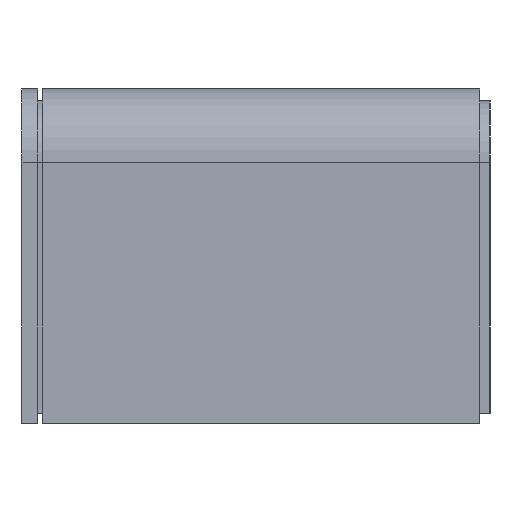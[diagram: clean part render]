
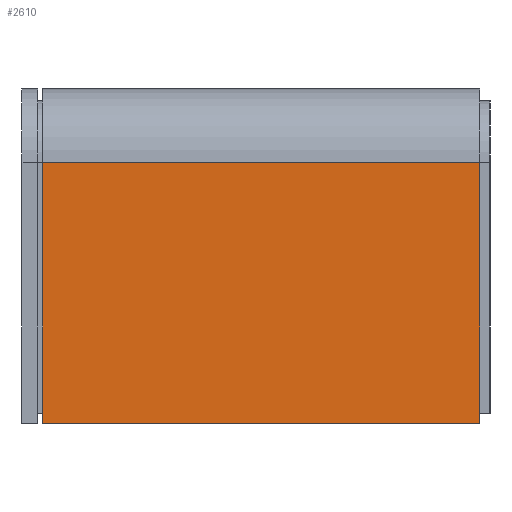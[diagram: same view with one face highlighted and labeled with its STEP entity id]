
A CAD part, left-side view. The second image highlights one B-rep face of the part: STEP entity #2610.
In plain terms, the highlighted planar face has unit normal (-1, 0, 0).
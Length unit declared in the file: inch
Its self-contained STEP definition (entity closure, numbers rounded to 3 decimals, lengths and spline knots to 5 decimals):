
#482=PLANE('',#2886);
#602=FACE_OUTER_BOUND('',#730,.T.);
#730=EDGE_LOOP('',(#2134,#2135,#2136,#2137));
#901=LINE('',#3917,#1174);
#902=LINE('',#3920,#1175);
#904=LINE('',#3926,#1177);
#905=LINE('',#3927,#1178);
#1174=VECTOR('',#3235,0.3937);
#1175=VECTOR('',#3238,0.3937);
#1177=VECTOR('',#3244,0.3937);
#1178=VECTOR('',#3245,0.3937);
#1485=VERTEX_POINT('',#3908);
#1488=VERTEX_POINT('',#3915);
#1489=VERTEX_POINT('',#3919);
#1491=VERTEX_POINT('',#3925);
#1727=EDGE_CURVE('',#1485,#1488,#901,.T.);
#1728=EDGE_CURVE('',#1485,#1489,#902,.T.);
#1731=EDGE_CURVE('',#1488,#1491,#904,.T.);
#1732=EDGE_CURVE('',#1491,#1489,#905,.T.);
#2134=ORIENTED_EDGE('',*,*,#1727,.T.);
#2135=ORIENTED_EDGE('',*,*,#1731,.T.);
#2136=ORIENTED_EDGE('',*,*,#1732,.T.);
#2137=ORIENTED_EDGE('',*,*,#1728,.F.);
#2610=ADVANCED_FACE('',(#602),#482,.T.);
#2886=AXIS2_PLACEMENT_3D('',#3924,#3242,#3243);
#3235=DIRECTION('',(0.,0.,-1.));
#3238=DIRECTION('',(0.,-1.,0.));
#3242=DIRECTION('center_axis',(-1.,0.,0.));
#3243=DIRECTION('ref_axis',(0.,0.,-1.));
#3244=DIRECTION('',(0.,-1.,0.));
#3245=DIRECTION('',(0.,0.,1.));
#3908=CARTESIAN_POINT('',(0.,-0.375,-5.5));
#3915=CARTESIAN_POINT('',(0.,-0.375,-25.));
#3917=CARTESIAN_POINT('',(0.,-0.375,-2.75));
#3919=CARTESIAN_POINT('',(0.,-33.0625,-5.5));
#3920=CARTESIAN_POINT('',(0.,0.,-5.5));
#3924=CARTESIAN_POINT('Origin',(0.,0.,-5.5));
#3925=CARTESIAN_POINT('',(0.,-33.0625,-25.));
#3926=CARTESIAN_POINT('',(0.,0.,-25.));
#3927=CARTESIAN_POINT('',(0.,-33.0625,-9.));
